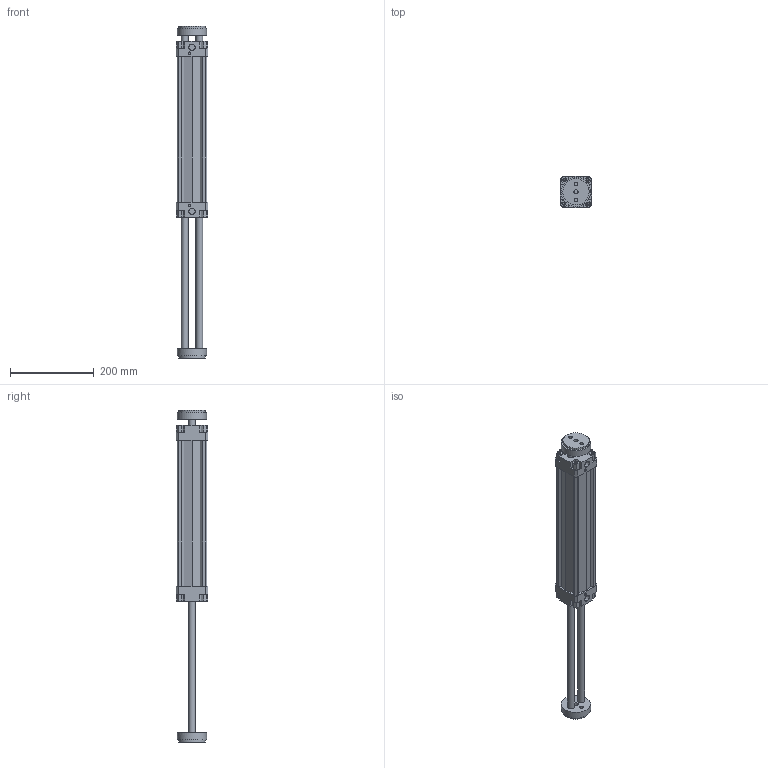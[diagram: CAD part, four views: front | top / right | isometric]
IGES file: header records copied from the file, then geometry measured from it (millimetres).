
Global section: file name: 132#_063_0300_06; native system: Autodesk Inventor 2014; preprocessor: unknown; author: A. Manieri; date: 20161006.160027; units: millimetre
Bounding box: 75 x 75 x 795 mm (x, y, z)
Volume: 1363280.8 mm3; surface area: 342043.4 mm2
Topology: 2 solids, 2 shells, 190 faces, 518 edges, 354 vertices
Faces by surface type: bspline 190
